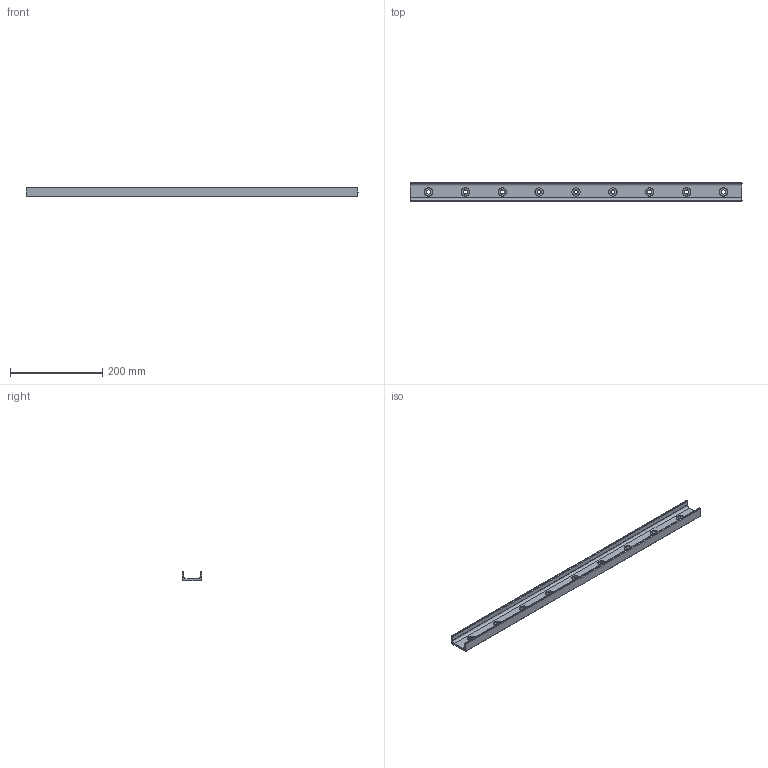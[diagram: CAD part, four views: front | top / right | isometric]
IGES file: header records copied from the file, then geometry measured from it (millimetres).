
Start section: SolidWorks IGES file using analytic representation for surfaces
Global section: file name: C:\Users\IanO\Desktop\43\L1943.ULC43_v2_20180121_IGES\L1943.ULC43-0720.igs; native system: SolidWorks 2017; preprocessor: SolidWorks 2017; author: IanO; date: 190121.084552; units: millimetre
Bounding box: 720 x 43 x 21 mm (x, y, z)
Surface area: 113401.7 mm2 (no closed solid volume)
Topology: 0 solids, 0 shells, 71 faces, 1590 edges, 1590 vertices
Faces by surface type: revolution 49, bspline 22
